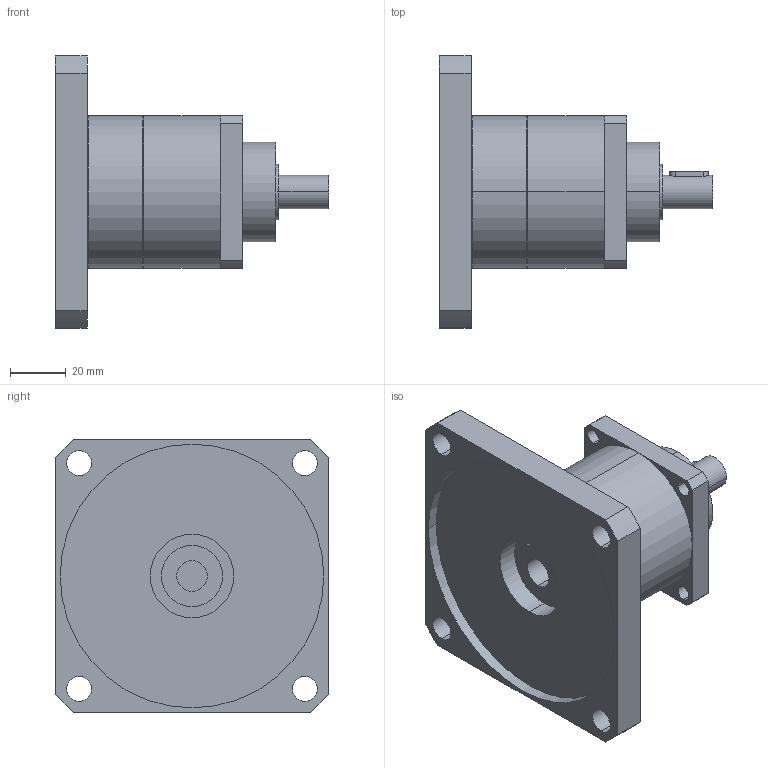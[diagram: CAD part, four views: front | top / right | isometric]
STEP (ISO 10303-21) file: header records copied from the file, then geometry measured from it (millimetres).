
FILE_DESCRIPTION(('CoCreate Modeling STEP Export'),'2;1');
FILE_NAME('GPT55_ig-3-4-5-7-10_12_B5A_11_P08.stp','2014-08-25T14:31:16',(''),(''),'CoCreate Modeling STEP processor for AP214 (Solid Model)','CoCreate Modeling 16.00C 25-Feb-2009 (C) Parametric Technology GmbH','');
FILE_SCHEMA(('AUTOMOTIVE_DESIGN { 1 0 10303 214 1 1 1 1 }'));
Length unit declared in the file: millimetre
Products named in the file (2): GPT55_ig-3-4-5-7-10_12_B5A_11_P08
Assembly tree (1 placements, depth 2):
  GPT55_ig-3-4-5-7-10_12_B5A_11_P08
    GPT55_ig-3-4-5-7-10_12_B5A_11_P08
Bounding box: 98.5 x 98 x 98 mm (x, y, z)
Volume: 223821.9 mm3; surface area: 41151 mm2
Topology: 1 solids, 1 shells, 77 faces, 197 edges, 132 vertices
Faces by surface type: cylinder 46, plane 27, cone 4
Entity records: 2480 total; most frequent: CARTESIAN_POINT 703, ORIENTED_EDGE 394, DIRECTION 318, EDGE_CURVE 197, VERTEX_POINT 132, AXIS2_PLACEMENT_3D 117, EDGE_LOOP 103, VECTOR 84
